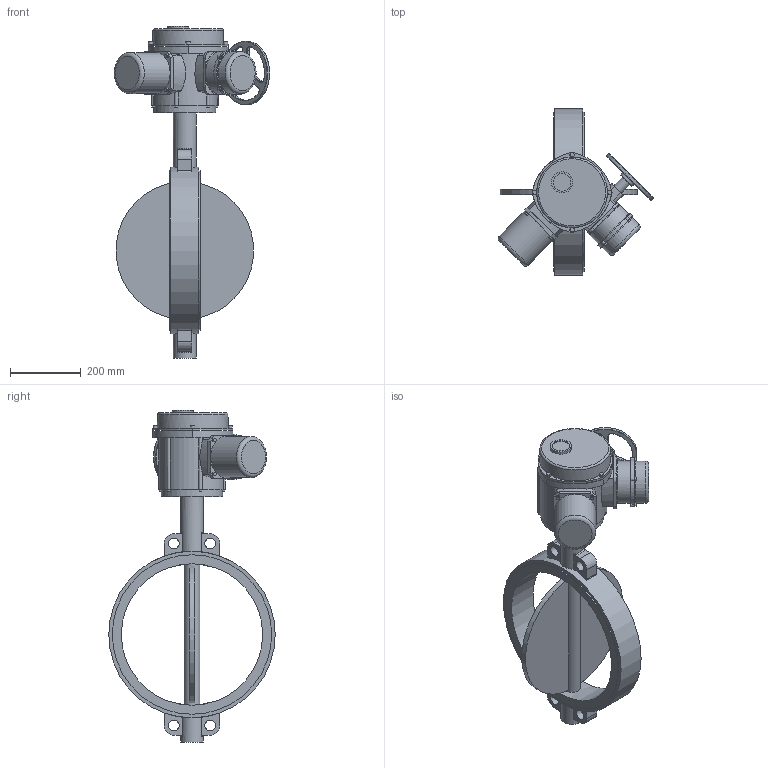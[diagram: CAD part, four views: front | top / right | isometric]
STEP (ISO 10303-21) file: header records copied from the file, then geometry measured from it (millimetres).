
FILE_DESCRIPTION(('STEP AP203'), '1');
FILE_NAME('青蜮铕 017W.YS_DN400_PN16_QT.Z 180', '', ('UNSPECIFIED'), ('UNSPECIFIED'), 'ASCON STEP Converter 1.6', 'ASCON Math Kernel', '');
FILE_SCHEMA(('CONFIG_CONTROL_DESIGN'));
Length unit declared in the file: millimetre
Bounding box: 439.48 x 471 x 939 mm (x, y, z)
Volume: 17464873.3 mm3; surface area: 1129115.9 mm2
Topology: 1 solids, 1 shells, 319 faces, 767 edges, 478 vertices
Faces by surface type: cylinder 143, plane 109, torus 51, cone 8, bspline 8
Full cylindrical faces by diameter (mm): 8 x10, 10 x4, 12 x4, 12.386 x1, 13.835 x4, 18 x4, 30 x5, 45 x2, 50 x1, 60 x1, 65 x2, 116 x1, 120 x2, 175 x1, 180 x1, 200 x1, 400 x1, 451 x2, 471 x1
Entity records: 14486 total; most frequent: CARTESIAN_POINT 4548, DIRECTION 1650, ORIENTED_EDGE 1380, AXIS2_PLACEMENT_3D 704, EDGE_CURVE 690, VERTEX_POINT 473, EDGE_LOOP 440, CIRCLE 392
